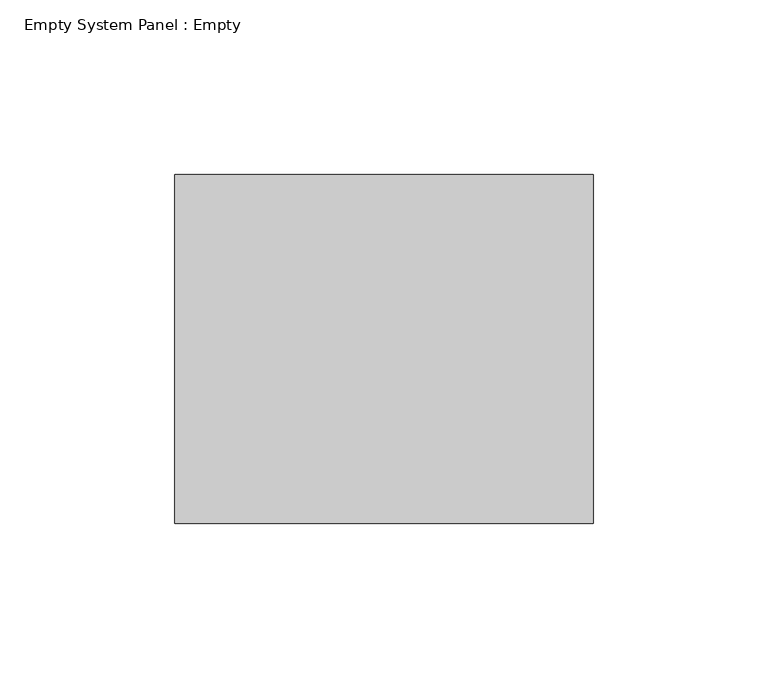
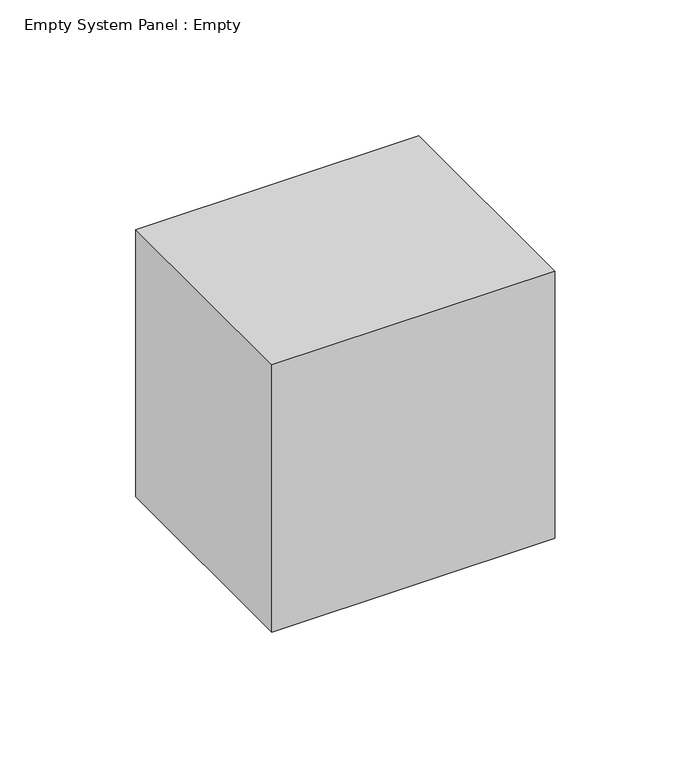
"""IFC4 building model written with IfcOpenShell, lengths in millimetres: plate geometry, Empty System Panel : Empty."""

from ifc_helpers import new_model, si_unit, origin, origin_with_axes, place, context, project, spatial, polyline, outline, extrude, source, transform, mapped, element, save


def empty_system_panel_empty_a57e421f(model_context):
    return source(origin(), model_context, "Body", "SweptSolid", [
        extrude(outline(polyline([(60.0, 50.0), (-60.0, 50.0), (-60.0, 150.0), (60.0, 150.0), (60.0, 50.0)])), origin_with_axes(), (0.0, 0.0, 1.0), 120.0),
    ])


if __name__ == "__main__":
    model = new_model("IFC4")
    model_context = context("Model", 3, world=origin())
    ifc_project = project(units=[si_unit("LENGTHUNIT", "METRE", prefix="MILLI")], contexts=[model_context])
    site = spatial("IfcSite", under=ifc_project)
    building = spatial("IfcBuilding", under=site)
    placement = place(None, origin())
    empty_system_panel_empty_shape = empty_system_panel_empty_a57e421f(model_context)
    element("IfcPlate", 1, ObjectType="Empty System Panel : Empty", at=placement, inside=building, context=model_context, shape_type="MappedRepresentation", body=[
        mapped(empty_system_panel_empty_shape, transform((0.0, 0.0, 0.0), x_axis=(1.0, 0.0, 0.0), y_axis=(0.0, 1.0, 0.0), z_axis=(0.0, 0.0, 1.0))),
    ])
    save(model, "model.ifc")
